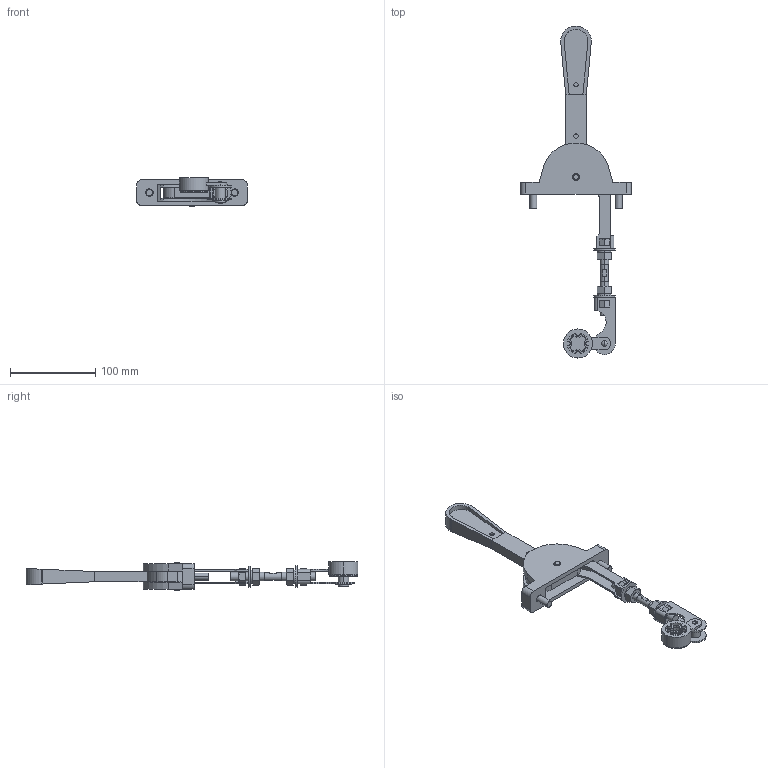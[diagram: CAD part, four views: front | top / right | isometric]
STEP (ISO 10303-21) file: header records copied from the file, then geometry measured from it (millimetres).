
FILE_DESCRIPTION (( 'STEP AP203' ), '1' );
FILE_NAME ('Ðóêîÿòêà ïåðåäíÿÿ ñìåùåííàÿ (100-400À).STEP', '2014-06-26T06:14:59', ( 'admin' ), ( 'Microsoft' ), 'SwSTEP 2.0', 'SolidWorks 2007', '' );
FILE_SCHEMA (( 'CONFIG_CONTROL_DESIGN' ));
Length unit declared in the file: millimetre
Products named in the file (1): Ðóêîÿòêà ïåðåäíÿÿ ñìåùåííàÿ (100-400À)
Bounding box: 130 x 389.01 x 33.5 mm (x, y, z)
Surface area: 80924.1 mm2 (no closed solid volume)
Topology: 0 solids, 32 shells, 364 faces, 1130 edges, 801 vertices
Faces by surface type: plane 198, cylinder 126, cone 32, torus 6, sphere 2
Entity records: 13053 total; most frequent: CARTESIAN_POINT 2708, DIRECTION 2255, ORIENTED_EDGE 1898, EDGE_CURVE 1130, AXIS2_PLACEMENT_3D 828, VERTEX_POINT 801, VECTOR 599, LINE 599
